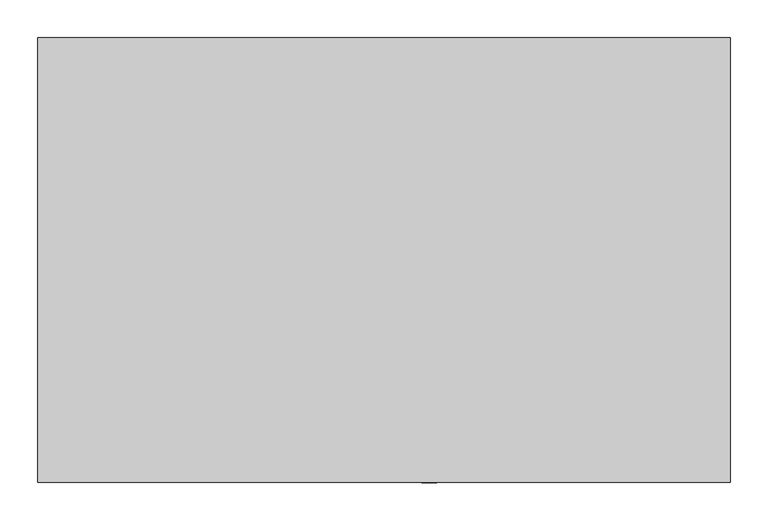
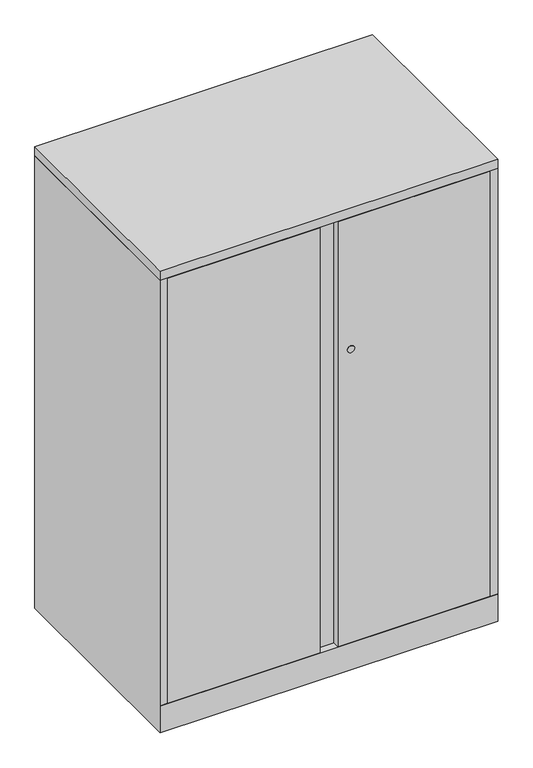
"""IFC4 building model written with IfcOpenShell, lengths in millimetres: furniture geometry, Steelcase - Universal Storage - Cabinet - Storage - 40H-52H - Flush Steel : 52H x 23 1/8D x 36W."""

from ifc_helpers import new_model, si_unit, point, frame, frame_2d, origin, place, context, project, spatial, polyline, circle_curve, trimmed, segment, composite_curve, outline, extrude, faceted_brep, source, transform, mapped, element, save


def furniture_5f507b1c(model_context):
    return source(origin(), model_context, "Body", "SolidModel", [
        extrude(outline(polyline([(914.4, 0.0), (914.4, -587.502), (0.0, -587.502), (0.0, 0.0), (914.4, 0.0)])), frame((0.0, 0.0, 1295.4), z_axis=(0.0, 0.0, 1.0), x_axis=(1.0, 0.0, 0.0)), (0.0, 0.0, 1.0), 25.4000484),
        extrude(outline(composite_curve([segment(trimmed(circle_curve(frame_2d((917.575, 517.0109835)), 9.7167829), [point((917.575, 526.7277664))], [point((917.575, 507.2942006))], False, "CARTESIAN"), True, "CONTINUOUS"), segment(trimmed(circle_curve(frame_2d((917.575, 517.0109835)), 9.7167829), [point((917.575, 507.2942006))], [point((917.575, 526.7277664))], False, "CARTESIAN"), True, "CONTINUOUS")], self_intersect=False)), frame((0.0, -588.1715275, 0.0), z_axis=(0.0, 1.0, 0.0), x_axis=(0.0, 0.0, 1.0)), (0.0, 0.0, 1.0), 0.6695275),
        extrude(outline(polyline([(20.8280006, -561.975866), (893.572, -561.975866), (893.572, -587.502), (481.33, -587.502), (481.33, -568.3258781), (433.07, -568.3258781), (433.07, -587.502), (20.8280006, -587.502), (20.8280006, -561.975866)])), frame((0.0, 0.0, 77.724), z_axis=(0.0, 0.0, 1.0), x_axis=(1.0, 0.0, 0.0)), (0.0, 0.0, 1.0), 1216.406),
        faceted_brep([(914.4, 0.0, 0.0), (914.4, -587.502, 0.0), (0.0, -587.502, 0.0), (0.0, 0.0, 0.0), (0.0, 0.0, 1295.4), (914.4, 0.0, 1295.4), (0.0, -587.502, 76.2), (0.0, -587.502, 77.724), (0.0, -587.502, 1295.4), (914.4, -587.502, 76.2), (914.4, -587.502, 1295.4), (914.4, -587.502, 77.724), (889.0000242, -25.4000008, 1295.4), (889.0000242, -560.4518674, 1295.4), (893.572, -560.4518674, 1295.4), (893.572, -561.9758781, 1295.4), (895.096, -561.9758781, 1295.4), (895.096, -587.502, 1295.4), (19.304, -587.502, 1295.4), (19.304, -561.975866, 1295.4), (20.8280006, -561.975866, 1295.4), (20.8280006, -560.4518674, 1295.4), (25.4000008, -560.4518674, 1295.4), (25.4000008, -25.4000008, 1295.4), (19.304, -587.502, 77.724), (19.304, -568.198, 77.724), (895.096, -587.502, 77.724), (895.096, -568.0718418, 77.724), (889.0000242, -25.4000008, 77.724), (889.0000242, -560.4518674, 77.724), (893.572, -560.4518674, 77.724), (893.572, -561.9758781, 77.724), (895.096, -561.9758781, 77.724), (19.304, -561.975866, 77.724), (20.8280006, -561.975866, 77.724), (20.8280006, -560.4518674, 77.724), (25.4000008, -560.4518674, 77.724), (25.4000008, -25.4000008, 77.724), (25.526134, -561.975866, 77.724), (889.0000242, -561.975866, 77.724)], [[[0, 1, 2, 3]], [[0, 3, 4, 5]], [[4, 3, 2, 6, 7, 8]], [[2, 1, 9, 6]], [[1, 0, 5, 10, 11, 9]], [[12, 13, 14, 15, 16, 17, 10, 5, 4, 8, 18, 19, 20, 21, 22, 23]], [[24, 7, 25]], [[11, 26, 27]], [[13, 12, 28, 29]], [[14, 13, 29, 30]], [[15, 14, 30, 31]], [[16, 15, 31, 32]], [[17, 16, 32, 27, 26]], [[10, 17, 26, 11]], [[18, 8, 7, 24]], [[19, 18, 24, 25, 33]], [[20, 19, 33, 34]], [[21, 20, 34, 35]], [[22, 21, 35, 36]], [[23, 22, 36, 37]], [[12, 23, 37, 28]], [[38, 39, 27, 32, 31, 30, 29, 28, 37, 36, 35, 34, 33, 25]], [[7, 6, 38, 25]], [[39, 38, 6, 9]], [[39, 9, 11, 27]]]),
    ])


if __name__ == "__main__":
    model = new_model("IFC4")
    model_context = context("Model", 3, world=origin())
    ifc_project = project(units=[si_unit("LENGTHUNIT", "METRE", prefix="MILLI")], contexts=[model_context])
    site = spatial("IfcSite", under=ifc_project)
    building = spatial("IfcBuilding", under=site)
    placement = place(None, origin())
    furniture_shape = furniture_5f507b1c(model_context)
    element("IfcFurniture", 1, ObjectType="Steelcase - Universal Storage - Cabinet - Storage - 40H-52H - Flush Steel : 52H x 23 1/8D x 36W", at=placement, inside=building, context=model_context, shape_type="MappedRepresentation", body=[
        mapped(furniture_shape, transform((0.0, 0.0, 0.0), x_axis=(1.0, 0.0, 0.0), y_axis=(0.0, 1.0, 0.0), z_axis=(0.0, 0.0, 1.0))),
    ])
    save(model, "model.ifc")
